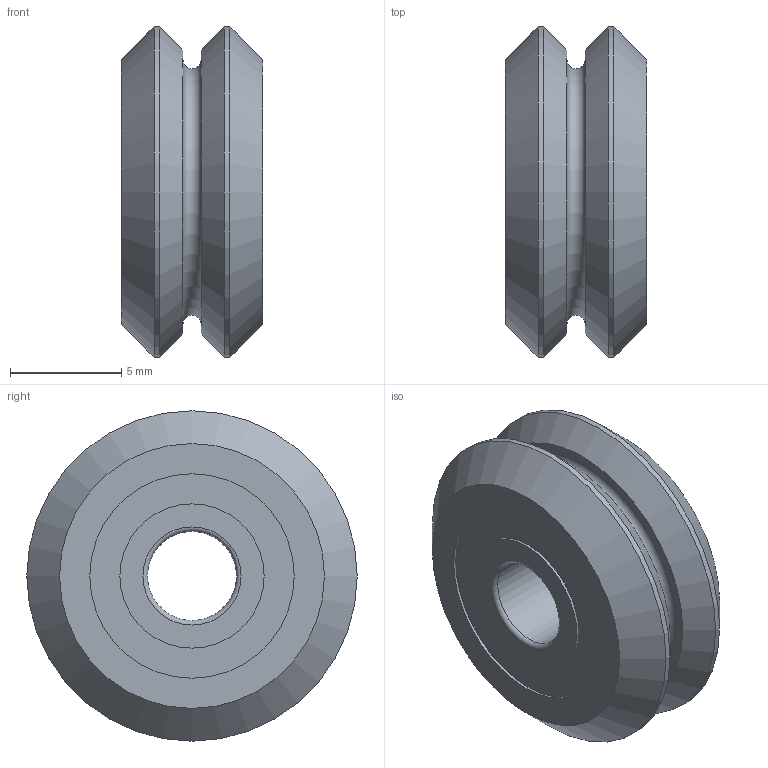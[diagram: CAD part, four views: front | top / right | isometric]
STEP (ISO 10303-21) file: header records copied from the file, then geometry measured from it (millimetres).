
FILE_DESCRIPTION( ( 'STEP AP214' ), '1' );
FILE_NAME( 'p:/temp/worker_53/temp/app_40_02019012316222855353805192d056f_000000_00_00_000000/format_0/W0X.stp', '2019-01-23T15:22:29', ( '' ), ( '' ), ' ', 'PARTsolutions', ' ' );
FILE_SCHEMA( ( 'AUTOMOTIVE_DESIGN { 1 0 10303 214 1 1 1 1 }' ) );
Length unit declared in the file: inch
Products named in the file (1): _W0X
Bounding box: 6.35 x 14.83 x 14.83 mm (x, y, z)
Volume: 796.6 mm3; surface area: 729.7 mm2
Topology: 1 solids, 1 shells, 30 faces, 48 edges, 30 vertices
Faces by surface type: plane 12, cylinder 11, cone 4, torus 3
Full cylindrical faces by diameter (mm): 4 x1, 6.223 x2, 6.477 x2, 9.182 x2, 9.436 x2, 14.834 x2
Entity records: 864 total; most frequent: DIRECTION 122, CARTESIAN_POINT 91, AXIS2_PLACEMENT_3D 61, EDGE_LOOP 60, ORIENTED_EDGE 60, FACE_OUTER_BOUND 44, STYLED_ITEM 30, PRESENTATION_STYLE_ASSIGNMENT 30
